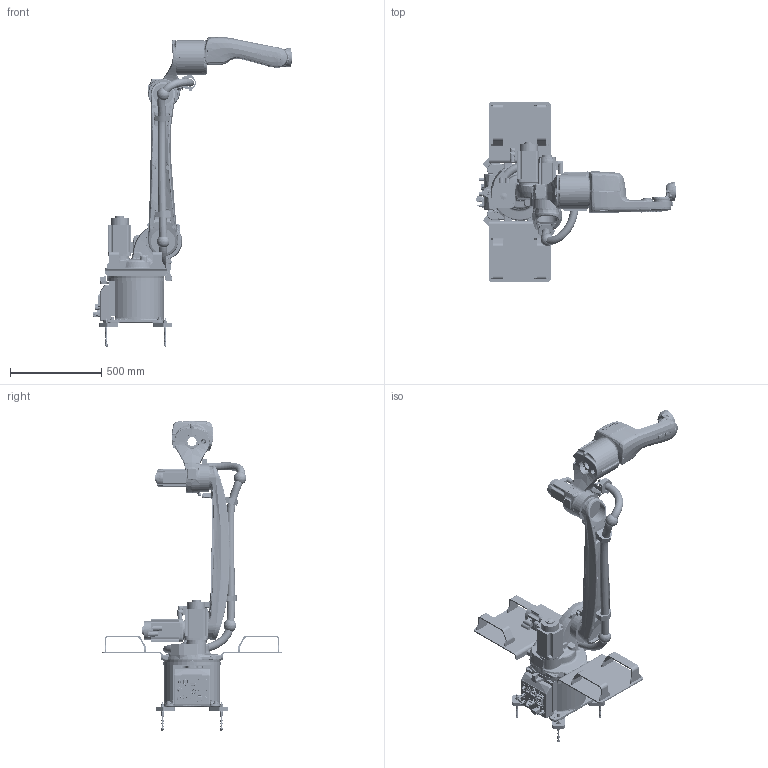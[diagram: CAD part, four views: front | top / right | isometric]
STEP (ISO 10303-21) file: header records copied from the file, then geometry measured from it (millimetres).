
FILE_DESCRIPTION(/* description */ (''),/* implementation_level */ '2;1');
FILE_NAME(/* name */ 'KR8_R1620_HW.stp',/* time_stamp */ '2017-02-20T14:42:15+01:00',/* author */ (''),/* organization */ (''),/* preprocessor_version */ 'ST-DEVELOPER v15',/* originating_system */ 'SIEMENS PLM Software NX 9.0',/* authorisation */ '');
FILE_SCHEMA (('AUTOMOTIVE_DESIGN { 1 0 10303 214 3 1 1 1 }'));
Products named in the file (1): Grep2A28C526ob0v
Bounding box: 1102.51 x 990 x 1706.51 mm (x, y, z)
Volume: 64763421.3 mm3; surface area: 4109701.4 mm2
Topology: 44 solids, 82 shells, 9165 faces, 22980 edges, 14332 vertices
Faces by surface type: plane 3827, bspline 2080, cylinder 1805, cone 643, torus 428, extrusion 293, sphere 80, revolution 9
Full cylindrical faces by diameter (mm): 0.001 x1, 0.377 x1, 0.493 x1, 0.95 x1, 1 x17, 1.05 x1, 1.075 x12, 1.2 x17, 1.25 x24, 2.3 x1, 2.5 x25, 2.6 x2, 2.8 x2, 3 x3, 3.3 x11, 3.35 x28, 3.5 x2, 3.8 x1, 3.98 x1, 4 x27, 4.2 x2, 4.8 x2, 5 x3, 5.2 x25, 5.4 x2, 5.45 x1, 5.5 x7, 5.6 x2, 6 x15, 6.4 x2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
Entity records: 365398 total; most frequent: CARTESIAN_POINT 158783, ORIENTED_EDGE 43932, DIRECTION 35167, EDGE_CURVE 21966, VERTEX_POINT 14086, AXIS2_PLACEMENT_3D 12475, EDGE_LOOP 10442, VECTOR 10208
